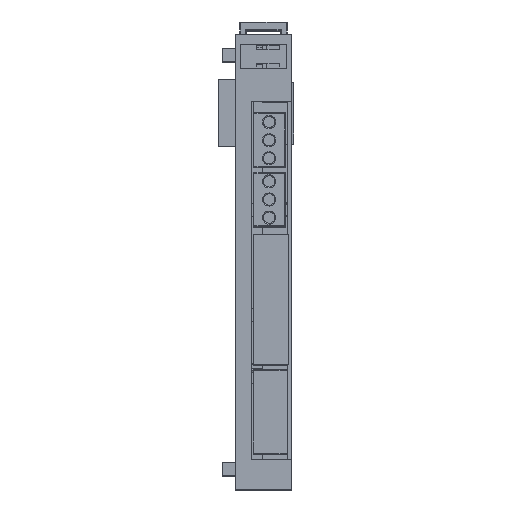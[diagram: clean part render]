
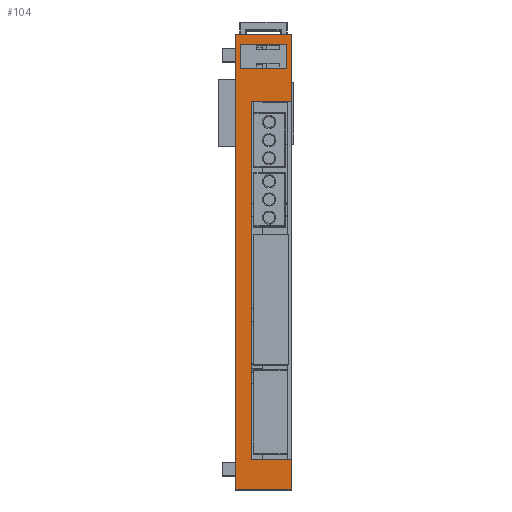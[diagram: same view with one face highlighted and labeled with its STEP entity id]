
A CAD part, top view. The second image highlights one B-rep face of the part: STEP entity #104.
In plain terms, the highlighted planar face has unit normal (0, 0, 1).
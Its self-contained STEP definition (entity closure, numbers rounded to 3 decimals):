
#104 = ADVANCED_FACE ( 'NONE', ( #25573, #4117 ), #8365, .F. ) ;
#482 = DIRECTION ( 'NONE',  ( 0., 1., 0. ) ) ;
#514 = CARTESIAN_POINT ( 'NONE',  ( -1., 46.827, 58.397 ) ) ;
#848 = VECTOR ( 'NONE', #482, 1000. ) ;
#1016 = DIRECTION ( 'NONE',  ( -1., 0., 0. ) ) ;
#1133 = CARTESIAN_POINT ( 'NONE',  ( -1., 46.827, 58.397 ) ) ;
#1665 = CARTESIAN_POINT ( 'NONE',  ( 11.5, -53.973, 58.397 ) ) ;
#1720 = VERTEX_POINT ( 'NONE', #11496 ) ;
#1961 = LINE ( 'NONE', #16646, #19159 ) ;
#2748 = VERTEX_POINT ( 'NONE', #19864 ) ;
#2829 = VECTOR ( 'NONE', #26203, 1000. ) ;
#3040 = CARTESIAN_POINT ( 'NONE',  ( 10.35, 44.446, 58.397 ) ) ;
#3094 = VECTOR ( 'NONE', #26492, 1000. ) ;
#3534 = DIRECTION ( 'NONE',  ( 1., 0., 0. ) ) ;
#4117 = FACE_OUTER_BOUND ( 'NONE', #22232, .T. ) ;
#4383 = CARTESIAN_POINT ( 'NONE',  ( 11.5, 31.902, 58.397 ) ) ;
#4654 = ORIENTED_EDGE ( 'NONE', *, *, #5760, .F. ) ;
#4784 = VERTEX_POINT ( 'NONE', #3040 ) ;
#5048 = CARTESIAN_POINT ( 'NONE',  ( -1., -50.873, 58.397 ) ) ;
#5760 = EDGE_CURVE ( 'NONE', #27237, #1720, #7114, .T. ) ;
#6010 = EDGE_CURVE ( 'NONE', #14685, #23562, #15345, .T. ) ;
#6599 = DIRECTION ( 'NONE',  ( 0., 0., -1. ) ) ;
#6687 = EDGE_CURVE ( 'NONE', #17039, #14685, #21250, .T. ) ;
#7114 = LINE ( 'NONE', #20006, #17690 ) ;
#7193 = CARTESIAN_POINT ( 'NONE',  ( 0.15, 39.246, 58.397 ) ) ;
#7778 = AXIS2_PLACEMENT_3D ( 'NONE', #16936, #6599, #23219 ) ;
#8238 = DIRECTION ( 'NONE',  ( -1., 0., 0. ) ) ;
#8261 = ORIENTED_EDGE ( 'NONE', *, *, #19466, .F. ) ;
#8315 = EDGE_CURVE ( 'NONE', #14718, #21852, #1961, .T. ) ;
#8365 = PLANE ( 'NONE',  #7778 ) ;
#9457 = ORIENTED_EDGE ( 'NONE', *, *, #20518, .F. ) ;
#10188 = DIRECTION ( 'NONE',  ( 1., 0., 0. ) ) ;
#10489 = VECTOR ( 'NONE', #25390, 1000. ) ;
#11210 = EDGE_CURVE ( 'NONE', #27237, #2748, #13771, .T. ) ;
#11496 = CARTESIAN_POINT ( 'NONE',  ( -1., -53.973, 58.397 ) ) ;
#11774 = CARTESIAN_POINT ( 'NONE',  ( 0.15, 39.246, 58.397 ) ) ;
#12082 = CARTESIAN_POINT ( 'NONE',  ( 11.5, -51.973, 58.397 ) ) ;
#12138 = EDGE_CURVE ( 'NONE', #4784, #17039, #13968, .T. ) ;
#12170 = DIRECTION ( 'NONE',  ( 0., 1., 0. ) ) ;
#13438 = ORIENTED_EDGE ( 'NONE', *, *, #11210, .T. ) ;
#13683 = LINE ( 'NONE', #18931, #25576 ) ;
#13771 = LINE ( 'NONE', #12082, #19379 ) ;
#13781 = ORIENTED_EDGE ( 'NONE', *, *, #8315, .T. ) ;
#13968 = LINE ( 'NONE', #21355, #15938 ) ;
#14076 = LINE ( 'NONE', #5048, #2829 ) ;
#14366 = VECTOR ( 'NONE', #3534, 1000. ) ;
#14685 = VERTEX_POINT ( 'NONE', #7193 ) ;
#14710 = ORIENTED_EDGE ( 'NONE', *, *, #6010, .F. ) ;
#14718 = VERTEX_POINT ( 'NONE', #23809 ) ;
#14791 = LINE ( 'NONE', #26970, #10489 ) ;
#14944 = CARTESIAN_POINT ( 'NONE',  ( 0.15, 44.446, 58.397 ) ) ;
#15345 = LINE ( 'NONE', #11774, #14366 ) ;
#15578 = ORIENTED_EDGE ( 'NONE', *, *, #6687, .F. ) ;
#15632 = VECTOR ( 'NONE', #16601, 1000. ) ;
#15938 = VECTOR ( 'NONE', #23762, 1000. ) ;
#16601 = DIRECTION ( 'NONE',  ( 0., -1., 0. ) ) ;
#16629 = CARTESIAN_POINT ( 'NONE',  ( 10.35, 39.246, 58.397 ) ) ;
#16646 = CARTESIAN_POINT ( 'NONE',  ( -1., 31.902, 58.397 ) ) ;
#16936 = CARTESIAN_POINT ( 'NONE',  ( 2., 43.727, 58.397 ) ) ;
#17039 = VERTEX_POINT ( 'NONE', #14944 ) ;
#17542 = ORIENTED_EDGE ( 'NONE', *, *, #12138, .F. ) ;
#17592 = CARTESIAN_POINT ( 'NONE',  ( 2.5, -47.248, 58.397 ) ) ;
#17611 = CARTESIAN_POINT ( 'NONE',  ( 10.35, 39.246, 58.397 ) ) ;
#17690 = VECTOR ( 'NONE', #1016, 1000. ) ;
#18017 = EDGE_CURVE ( 'NONE', #2748, #23199, #13683, .T. ) ;
#18175 = EDGE_CURVE ( 'NONE', #22716, #24536, #26573, .T. ) ;
#18931 = CARTESIAN_POINT ( 'NONE',  ( 3., -47.248, 58.397 ) ) ;
#19159 = VECTOR ( 'NONE', #10188, 1000. ) ;
#19347 = ORIENTED_EDGE ( 'NONE', *, *, #20320, .F. ) ;
#19379 = VECTOR ( 'NONE', #12170, 1000. ) ;
#19466 = EDGE_CURVE ( 'NONE', #14718, #23199, #14791, .T. ) ;
#19864 = CARTESIAN_POINT ( 'NONE',  ( 11.5, -47.248, 58.397 ) ) ;
#19883 = ORIENTED_EDGE ( 'NONE', *, *, #18017, .T. ) ;
#20006 = CARTESIAN_POINT ( 'NONE',  ( 11.5, -53.973, 58.397 ) ) ;
#20132 = CARTESIAN_POINT ( 'NONE',  ( 11.5, 44.827, 58.397 ) ) ;
#20320 = EDGE_CURVE ( 'NONE', #23562, #4784, #20398, .T. ) ;
#20398 = LINE ( 'NONE', #17611, #848 ) ;
#20518 = EDGE_CURVE ( 'NONE', #1720, #22716, #14076, .T. ) ;
#21250 = LINE ( 'NONE', #22791, #15632 ) ;
#21355 = CARTESIAN_POINT ( 'NONE',  ( 10.35, 44.446, 58.397 ) ) ;
#21556 = EDGE_CURVE ( 'NONE', #21852, #24536, #23941, .T. ) ;
#21852 = VERTEX_POINT ( 'NONE', #4383 ) ;
#21888 = ORIENTED_EDGE ( 'NONE', *, *, #21556, .T. ) ;
#21967 = DIRECTION ( 'NONE',  ( 1., 0., 0. ) ) ;
#22010 = EDGE_LOOP ( 'NONE', ( #19347, #14710, #15578, #17542 ) ) ;
#22232 = EDGE_LOOP ( 'NONE', ( #19883, #8261, #13781, #21888, #25251, #9457, #4654, #13438 ) ) ;
#22716 = VERTEX_POINT ( 'NONE', #1133 ) ;
#22791 = CARTESIAN_POINT ( 'NONE',  ( 0.15, 44.446, 58.397 ) ) ;
#23199 = VERTEX_POINT ( 'NONE', #17592 ) ;
#23219 = DIRECTION ( 'NONE',  ( 0., 1., 0. ) ) ;
#23562 = VERTEX_POINT ( 'NONE', #16629 ) ;
#23762 = DIRECTION ( 'NONE',  ( -1., 0., 0. ) ) ;
#23809 = CARTESIAN_POINT ( 'NONE',  ( 2.5, 31.902, 58.397 ) ) ;
#23940 = VECTOR ( 'NONE', #21967, 1000. ) ;
#23941 = LINE ( 'NONE', #20132, #3094 ) ;
#24172 = CARTESIAN_POINT ( 'NONE',  ( 11.5, 46.827, 58.397 ) ) ;
#24536 = VERTEX_POINT ( 'NONE', #24172 ) ;
#25251 = ORIENTED_EDGE ( 'NONE', *, *, #18175, .F. ) ;
#25390 = DIRECTION ( 'NONE',  ( 0., -1., 0. ) ) ;
#25573 = FACE_BOUND ( 'NONE', #22010, .T. ) ;
#25576 = VECTOR ( 'NONE', #8238, 1000. ) ;
#26203 = DIRECTION ( 'NONE',  ( 0., 1., 0. ) ) ;
#26492 = DIRECTION ( 'NONE',  ( 0., 1., 0. ) ) ;
#26573 = LINE ( 'NONE', #514, #23940 ) ;
#26970 = CARTESIAN_POINT ( 'NONE',  ( 2.5, 31.902, 58.397 ) ) ;
#27237 = VERTEX_POINT ( 'NONE', #1665 ) ;
